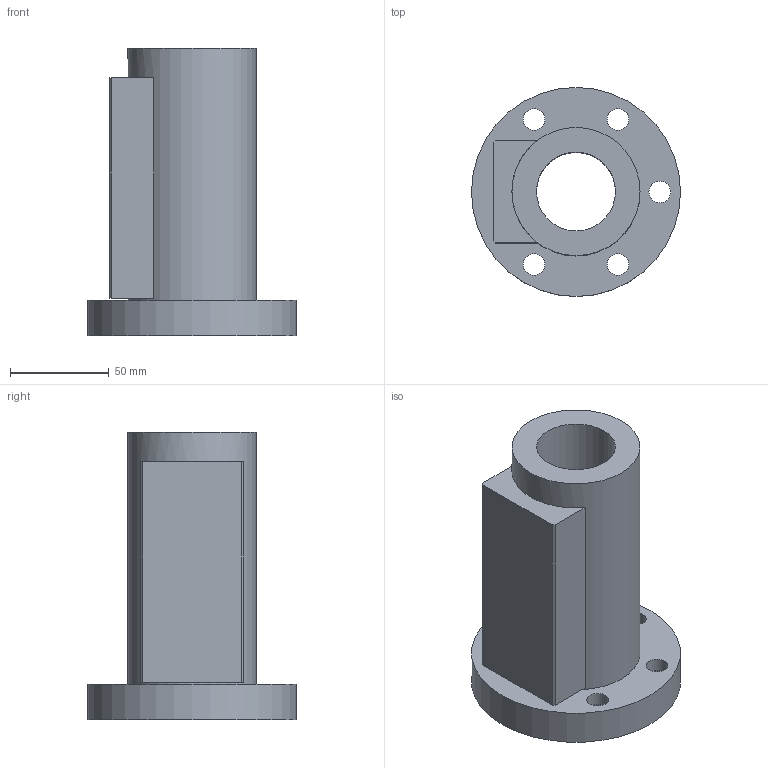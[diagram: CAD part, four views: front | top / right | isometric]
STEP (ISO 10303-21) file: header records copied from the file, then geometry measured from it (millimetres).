
FILE_DESCRIPTION(/* description */ (''),/* implementation_level */ '2;1');
FILE_NAME(/* name */ '40-32B1',/* time_stamp */ '2006-07-31T11:52:26+08:00',/* author */ (''),/* organization */ (''),/* preprocessor_version */ 'ST-DEVELOPER v9',/* originating_system */ 'UGS - NX 4.0',/* authorisation */ '');
FILE_SCHEMA (('CONFIG_CONTROL_DESIGN'));
Length unit declared in the file: millimetre
Products named in the file (1): 40-32B1
Bounding box: 106 x 106 x 146 mm (x, y, z)
Volume: 461577.3 mm3; surface area: 74273.4 mm2
Topology: 1 solids, 1 shells, 28 faces, 61 edges, 42 vertices
Faces by surface type: plane 15, cylinder 13
Full cylindrical faces by diameter (mm): 11 x5, 17.5 x5, 40 x1, 65 x1, 106 x1
Entity records: 794 total; most frequent: DIRECTION 130, CARTESIAN_POINT 111, ORIENTED_EDGE 88, EDGE_LOOP 60, AXIS2_PLACEMENT_3D 57, FACE_BOUND 45, EDGE_CURVE 44, VERTEX_POINT 38
